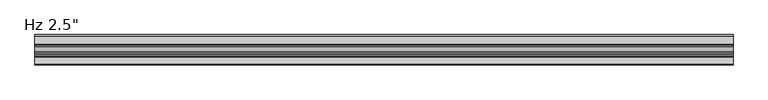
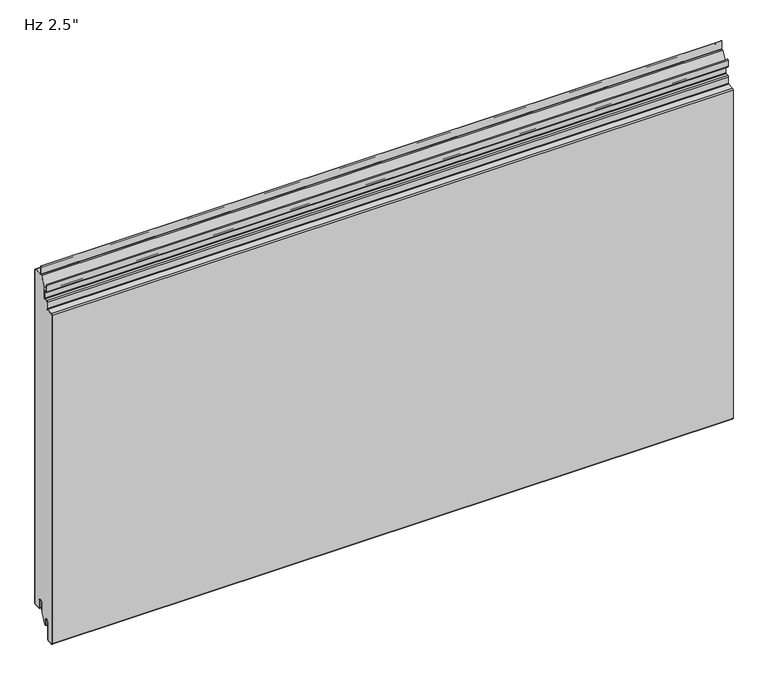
"""IFC4 building model written with IfcOpenShell, lengths in millimetres: plate geometry."""

from ifc_helpers import new_model, si_unit, point, frame, frame_2d, origin, place, context, project, spatial, polyline, circle_curve, ellipse_curve, trimmed, segment, composite_curve, outline, extrude, source, transform, mapped, element, save
from ifc_brep_helpers import plane_surface, cylinder_surface, revolved_surface, extruded_surface, advanced_brep


def plate_8016c28f(model_context):
    return source(origin(), model_context, "Body", "SolidModel", [
        extrude(outline(composite_curve([segment(trimmed(circle_curve(frame_2d((-21.43125, 19.25)), 4.96875), [point((-16.4625, 19.25))], [point((-26.4, 19.25))], True, "CARTESIAN"), True, "CONTINUOUS"), segment(polyline([(-26.4, 19.25), (-26.4, -2.9323422), (-36.5326309, -22.81875), (-38.1, -22.81875), (-38.1, -13.3080174), (-38.89375, -13.3080174), (-38.6875, -11.7205174)]), True, "CONTINUOUS"), segment(trimmed(circle_curve(frame_2d((-43.65625, -11.7205174)), 4.96875), [point((-38.6875, -11.7205174))], [point((-48.625, -11.7205174))], True, "CARTESIAN"), True, "CONTINUOUS"), segment(polyline([(-48.625, -11.7205174), (-48.625, -49.9038221)]), True, "CONTINUOUS"), segment(trimmed(circle_curve(frame_2d((-50.00625, -49.9038221)), 1.38125), [point((-48.625, -49.9038221))], [point((-49.933961, -51.2831791))], False, "CARTESIAN"), True, "CONTINUOUS"), segment(polyline([(-49.933961, -51.2831791), (-61.046461, -51.8655606)]), True, "CONTINUOUS"), segment(trimmed(circle_curve(frame_2d((-61.11875, -50.4862035)), 1.38125), [point((-61.046461, -51.8655606))], [point((-62.5, -50.4862035))], False, "CARTESIAN"), True, "CONTINUOUS"), segment(polyline([(-62.5, -50.4862035), (-62.5, 694.0447607)]), True, "CONTINUOUS"), segment(trimmed(circle_curve(frame_2d((-61.11875, 694.0447607)), 1.38125), [point((-62.5, 694.0447607))], [point((-61.191039, 695.4241177))], False, "CARTESIAN"), True, "CONTINUOUS"), segment(polyline([(-61.191039, 695.4241177), (-47.4895807, 696.1421807)]), True, "CONTINUOUS"), segment(trimmed(circle_curve(frame_2d((-47.625, 698.7261347)), 2.5875), [point((-47.4895807, 696.1421807))], [point((-45.0375, 698.7261347))], True, "CARTESIAN"), True, "CONTINUOUS"), segment(polyline([(-45.0375, 698.7261347), (-45.0375, 712.8824411)]), True, "CONTINUOUS"), segment(trimmed(circle_curve(frame_2d((-43.65625, 712.8824411)), 1.38125), [point((-45.0375, 712.8824411))], [point((-43.728539, 714.2617981))], False, "CARTESIAN"), True, "CONTINUOUS"), segment(polyline([(-43.728539, 714.2617981), (-37.9645807, 714.5638744)]), True, "CONTINUOUS"), segment(trimmed(circle_curve(frame_2d((-38.1, 717.1478283)), 2.5875), [point((-37.9645807, 714.5638744))], [point((-35.5125, 717.1478283))], True, "CARTESIAN"), True, "CONTINUOUS"), segment(polyline([(-35.5125, 717.1478283), (-35.5125, 739.5892934), (-24.9057308, 760.40625), (-2.38125, 760.40625)]), True, "CONTINUOUS"), segment(trimmed(circle_curve(frame_2d((-2.38125, 759.025)), 1.38125), [point((-2.38125, 760.40625))], [point((-1.0, 759.025))], False, "CARTESIAN"), True, "CONTINUOUS"), segment(polyline([(-1.0, 759.025), (-1.0, 3.375)]), True, "CONTINUOUS"), segment(trimmed(circle_curve(frame_2d((-2.38125, 3.375)), 1.38125), [point((-1.0, 3.375))], [point((-2.38125, 1.99375))], False, "CARTESIAN"), True, "CONTINUOUS"), segment(polyline([(-2.38125, 1.99375), (-15.08125, 1.99375)]), True, "CONTINUOUS"), segment(trimmed(circle_curve(frame_2d((-15.08125, 3.375)), 1.38125), [point((-15.08125, 1.99375))], [point((-16.4625, 3.375))], False, "CARTESIAN"), True, "CONTINUOUS"), segment(polyline([(-16.4625, 3.375), (-16.4625, 19.25)]), True, "CONTINUOUS")], self_intersect=False)), frame((-730.0, 0.0, 0.0), z_axis=(1.0, 0.0, 0.0), x_axis=(0.0, 1.0, 0.0)), (0.0, 0.0, 1.0), 1460.0),
        extrude(outline(composite_curve([segment(polyline([(-25.4, 0.99375), (-26.4, 0.99375), (-26.4, 19.25)]), True, "CONTINUOUS"), segment(trimmed(circle_curve(frame_2d((-21.43125, 19.25)), 4.96875), [point((-26.4, 19.25))], [point((-16.4625, 19.25))], False, "CARTESIAN"), True, "CONTINUOUS"), segment(polyline([(-16.4625, 19.25), (-16.4625, 3.375)]), True, "CONTINUOUS"), segment(trimmed(circle_curve(frame_2d((-15.08125, 3.375)), 1.38125), [point((-16.4625, 3.375))], [point((-15.08125, 1.99375))], True, "CARTESIAN"), True, "CONTINUOUS"), segment(polyline([(-15.08125, 1.99375), (-2.38125, 1.99375)]), True, "CONTINUOUS"), segment(trimmed(circle_curve(frame_2d((-2.38125, 3.375)), 1.38125), [point((-2.38125, 1.99375))], [point((-1.0, 3.375))], True, "CARTESIAN"), True, "CONTINUOUS"), segment(polyline([(-1.0, 3.375), (-1.0, 759.025)]), True, "CONTINUOUS"), segment(trimmed(circle_curve(frame_2d((-2.38125, 759.025)), 1.38125), [point((-1.0, 759.025))], [point((-2.38125, 760.40625))], True, "CARTESIAN"), True, "CONTINUOUS"), segment(polyline([(-2.38125, 760.40625), (-19.446875, 760.40625)]), True, "CONTINUOUS"), segment(trimmed(circle_curve(frame_2d((-19.446875, 762.99375)), 2.5875), [point((-19.446875, 760.40625))], [point((-22.034375, 762.99375))], False, "CARTESIAN"), True, "CONTINUOUS"), segment(polyline([(-22.034375, 762.99375), (-22.034375, 780.45625), (-21.034375, 780.45625), (-21.034375, 762.99375)]), True, "CONTINUOUS"), segment(trimmed(circle_curve(frame_2d((-19.446875, 762.99375)), 1.5875), [point((-21.034375, 762.99375))], [point((-19.446875, 761.40625))], True, "CARTESIAN"), True, "CONTINUOUS"), segment(polyline([(-19.446875, 761.40625), (-2.38125, 761.40625)]), True, "CONTINUOUS"), segment(trimmed(circle_curve(frame_2d((-2.38125, 759.025)), 2.38125), [point((-2.38125, 761.40625))], [point((0.0, 759.025))], False, "CARTESIAN"), True, "CONTINUOUS"), segment(polyline([(0.0, 759.025), (0.0, 3.375)]), True, "CONTINUOUS"), segment(trimmed(circle_curve(frame_2d((-2.38125, 3.375)), 2.38125), [point((0.0, 3.375))], [point((-2.38125, 0.99375))], False, "CARTESIAN"), True, "CONTINUOUS"), segment(polyline([(-2.38125, 0.99375), (-15.08125, 0.99375)]), True, "CONTINUOUS"), segment(trimmed(circle_curve(frame_2d((-15.08125, 3.375)), 2.38125), [point((-15.08125, 0.99375))], [point((-17.4625, 3.375))], False, "CARTESIAN"), True, "CONTINUOUS"), segment(polyline([(-17.4625, 3.375), (-17.4625, 19.25)]), True, "CONTINUOUS"), segment(trimmed(circle_curve(frame_2d((-21.43125, 19.25)), 3.96875), [point((-17.4625, 19.25))], [point((-25.4, 19.25))], True, "CARTESIAN"), True, "CONTINUOUS"), segment(polyline([(-25.4, 19.25), (-25.4, 0.99375)]), True, "CONTINUOUS")], self_intersect=False)), frame((-730.0, 0.0, 0.0), z_axis=(1.0, 0.0, 0.0), x_axis=(0.0, 1.0, 0.0)), (0.0, 0.0, 1.0), 1460.0),
        advanced_brep(
        [(-730.0, -38.1, -23.0314549), (-730.0, -39.6875, -23.0314549), (-730.0, -39.6875, -11.7205174), (-730.0, -47.625, -11.7205174), (-730.0, -47.625, -49.9038221), (-730.0, -49.881625, -52.2818086), (-730.0, -60.994125, -52.8641901), (-730.0, -63.5, -50.4862035), (-730.0, -63.5, 694.0447607), (-730.0, -61.243375, 696.4227473), (-730.0, -47.5419167, 697.1408103), (-730.0, -46.0375, 698.7261347), (-730.0, -46.0375, 712.8824411), (-730.0, -43.780875, 715.2604276), (-730.0, -38.0169167, 715.5625039), (-730.0, -36.5125, 717.1478283), (-730.0, -36.5125, 732.0232326), (-730.0, -38.1, 733.6107326), (-730.0, -42.2671875, 733.6107326), (-730.0, -44.6484375, 735.9919826), (-730.0, -44.6484375, 750.4836032), (-730.0, -42.8546875, 750.4836032), (-730.0, -42.8546875, 740.7544826), (-730.0, -43.6484375, 740.7544826), (-730.0, -43.6484375, 735.9919826), (-730.0, -42.2671875, 734.6107326), (-730.0, -38.1, 734.6107326), (-730.0, -35.5125, 732.0232326), (-730.0, -35.5125, 717.1478283), (-730.0, -37.9645807, 714.5638744), (-730.0, -43.728539, 714.2617981), (-730.0, -45.0375, 712.8824411), (-730.0, -45.0375, 698.7261347), (-730.0, -47.4895807, 696.1421807), (-730.0, -61.191039, 695.4241177), (-730.0, -62.5, 694.0447607), (-730.0, -62.5, -50.4862035), (-730.0, -61.046461, -51.8655606), (-730.0, -49.933961, -51.2831791), (-730.0, -48.625, -49.9038221), (-730.0, -48.625, -11.7205174), (-730.0, -38.6875, -11.7205174), (-730.0, -38.89375, -13.3080174), (-730.0, -38.1, -13.3080174), (730.0, -38.1, -23.0314549), (730.0, -38.1, -13.3080174), (730.0, -38.89375, -13.3080174), (730.0, -38.6875, -11.7205174), (730.0, -48.625, -11.7205174), (730.0, -48.625, -49.9038221), (730.0, -49.933961, -51.2831791), (730.0, -61.046461, -51.8655606), (730.0, -62.5, -50.4862035), (730.0, -62.5, 694.0447607), (730.0, -61.191039, 695.4241177), (730.0, -47.4895807, 696.1421807), (730.0, -45.0375, 698.7261347), (730.0, -45.0375, 712.8824411), (730.0, -43.728539, 714.2617981), (730.0, -37.9645807, 714.5638744), (730.0, -35.5125, 717.1478283), (730.0, -35.5125, 732.0232326), (730.0, -38.1, 734.6107326), (730.0, -42.2671875, 734.6107326), (730.0, -43.6484375, 735.9919826), (730.0, -43.6484375, 740.7544826), (730.0, -42.8546875, 740.7544826), (730.0, -42.8546875, 750.4836032), (730.0, -44.6484375, 750.4836032), (730.0, -44.6484375, 735.9919826), (730.0, -42.2671875, 733.6107326), (730.0, -38.1, 733.6107326), (730.0, -36.5125, 732.0232326), (730.0, -36.5125, 717.1478283), (730.0, -38.0169167, 715.5625039), (730.0, -43.780875, 715.2604276), (730.0, -46.0375, 712.8824411), (730.0, -46.0375, 698.7261347), (730.0, -47.5419167, 697.1408103), (730.0, -61.243375, 696.4227473), (730.0, -63.5, 694.0447607), (730.0, -63.5, -50.4862035), (730.0, -60.994125, -52.8641901), (730.0, -49.881625, -52.2818086), (730.0, -47.625, -49.9038221), (730.0, -47.625, -11.7205174), (730.0, -39.6875, -11.7205174), (730.0, -39.6875, -23.0314549)],
        [
            (0, 1, circle_curve(frame((-730.0, -38.89375, -23.0314549), z_axis=(-1.0, 0.0, 0.0), x_axis=(0.0, 0.0, -1.0)), 0.79375)),
            (1, 2),
            (2, 3, circle_curve(frame((-730.0, -43.65625, -11.7205174), z_axis=(1.0, 0.0, 0.0), x_axis=(0.0, 0.0, -1.0)), 3.96875)),
            (3, 4),
            (4, 5, circle_curve(frame((-730.0, -50.00625, -49.9038221), z_axis=(-1.0, 0.0, 0.0), x_axis=(0.0, 0.0, -1.0)), 2.38125)),
            (5, 6),
            (6, 7, circle_curve(frame((-730.0, -61.11875, -50.4862035), z_axis=(-1.0, 0.0, 0.0), x_axis=(0.0, 0.0, -1.0)), 2.38125)),
            (7, 8),
            (8, 9, circle_curve(frame((-730.0, -61.11875, 694.0447607), z_axis=(-1.0, 0.0, 0.0), x_axis=(0.0, 0.0, -1.0)), 2.38125)),
            (9, 10),
            (10, 11, circle_curve(frame((-730.0, -47.625, 698.7261347), z_axis=(1.0, 0.0, 0.0), x_axis=(0.0, 0.0, -1.0)), 1.5875)),
            (11, 12),
            (12, 13, circle_curve(frame((-730.0, -43.65625, 712.8824411), z_axis=(-1.0, 0.0, 0.0), x_axis=(0.0, 0.0, -1.0)), 2.38125)),
            (13, 14),
            (14, 15, circle_curve(frame((-730.0, -38.1, 717.1478283), z_axis=(1.0, 0.0, 0.0), x_axis=(0.0, 0.0, -1.0)), 1.5875)),
            (15, 16),
            (16, 17, circle_curve(frame((-730.0, -38.1, 732.0232326), z_axis=(1.0, 0.0, 0.0), x_axis=(0.0, 0.0, -1.0)), 1.5875)),
            (17, 18),
            (18, 19, circle_curve(frame((-730.0, -42.2671875, 735.9919826), z_axis=(-1.0, 0.0, 0.0), x_axis=(0.0, 0.0, -1.0)), 2.38125)),
            (19, 20),
            (20, 21, ellipse_curve(frame((-730.0, -43.7515625, 750.4836032), z_axis=(-1.0, 0.0, 0.0), x_axis=(0.0, 1.0, 0.0)), 0.896875, 0.7852275)),
            (21, 22),
            (22, 23),
            (23, 24),
            (24, 25, circle_curve(frame((-730.0, -42.2671875, 735.9919826), z_axis=(1.0, 0.0, 0.0), x_axis=(0.0, 0.0, -1.0)), 1.38125)),
            (25, 26),
            (26, 27, circle_curve(frame((-730.0, -38.1, 732.0232326), z_axis=(-1.0, 0.0, 0.0), x_axis=(0.0, 0.0, -1.0)), 2.5875)),
            (27, 28),
            (28, 29, circle_curve(frame((-730.0, -38.1, 717.1478283), z_axis=(-1.0, 0.0, 0.0), x_axis=(0.0, 0.0, -1.0)), 2.5875)),
            (29, 30),
            (30, 31, circle_curve(frame((-730.0, -43.65625, 712.8824411), z_axis=(1.0, 0.0, 0.0), x_axis=(0.0, 0.0, -1.0)), 1.38125)),
            (31, 32),
            (32, 33, circle_curve(frame((-730.0, -47.625, 698.7261347), z_axis=(-1.0, 0.0, 0.0), x_axis=(0.0, 0.0, -1.0)), 2.5875)),
            (33, 34),
            (34, 35, circle_curve(frame((-730.0, -61.11875, 694.0447607), z_axis=(1.0, 0.0, 0.0), x_axis=(0.0, 0.0, -1.0)), 1.38125)),
            (35, 36),
            (36, 37, circle_curve(frame((-730.0, -61.11875, -50.4862035), z_axis=(1.0, 0.0, 0.0), x_axis=(0.0, 0.0, -1.0)), 1.38125)),
            (37, 38),
            (38, 39, circle_curve(frame((-730.0, -50.00625, -49.9038221), z_axis=(1.0, 0.0, 0.0), x_axis=(0.0, 0.0, -1.0)), 1.38125)),
            (39, 40),
            (40, 41, circle_curve(frame((-730.0, -43.65625, -11.7205174), z_axis=(-1.0, 0.0, 0.0), x_axis=(0.0, 0.0, -1.0)), 4.96875)),
            (41, 42),
            (42, 43),
            (43, 0),
            (44, 45),
            (45, 46),
            (46, 47),
            (47, 48, circle_curve(frame((730.0, -43.65625, -11.7205174), z_axis=(1.0, 0.0, 0.0), x_axis=(0.0, 0.0, -1.0)), 4.96875)),
            (48, 49),
            (49, 50, circle_curve(frame((730.0, -50.00625, -49.9038221), z_axis=(-1.0, 0.0, 0.0), x_axis=(0.0, 0.0, -1.0)), 1.38125)),
            (50, 51),
            (51, 52, circle_curve(frame((730.0, -61.11875, -50.4862035), z_axis=(-1.0, 0.0, 0.0), x_axis=(0.0, 0.0, -1.0)), 1.38125)),
            (52, 53),
            (53, 54, circle_curve(frame((730.0, -61.11875, 694.0447607), z_axis=(-1.0, 0.0, 0.0), x_axis=(0.0, 0.0, -1.0)), 1.38125)),
            (54, 55),
            (55, 56, circle_curve(frame((730.0, -47.625, 698.7261347), z_axis=(1.0, 0.0, 0.0), x_axis=(0.0, 0.0, -1.0)), 2.5875)),
            (56, 57),
            (57, 58, circle_curve(frame((730.0, -43.65625, 712.8824411), z_axis=(-1.0, 0.0, 0.0), x_axis=(0.0, 0.0, -1.0)), 1.38125)),
            (58, 59),
            (59, 60, circle_curve(frame((730.0, -38.1, 717.1478283), z_axis=(1.0, 0.0, 0.0), x_axis=(0.0, 0.0, -1.0)), 2.5875)),
            (60, 61),
            (61, 62, circle_curve(frame((730.0, -38.1, 732.0232326), z_axis=(1.0, 0.0, 0.0), x_axis=(0.0, 0.0, -1.0)), 2.5875)),
            (62, 63),
            (63, 64, circle_curve(frame((730.0, -42.2671875, 735.9919826), z_axis=(-1.0, 0.0, 0.0), x_axis=(0.0, 0.0, -1.0)), 1.38125)),
            (64, 65),
            (65, 66),
            (66, 67),
            (67, 68, ellipse_curve(frame((730.0, -43.7515625, 750.4836032), z_axis=(1.0, 0.0, 0.0), x_axis=(0.0, 1.0, 0.0)), 0.896875, 0.7852275)),
            (68, 69),
            (69, 70, circle_curve(frame((730.0, -42.2671875, 735.9919826), z_axis=(1.0, 0.0, 0.0), x_axis=(0.0, 0.0, -1.0)), 2.38125)),
            (70, 71),
            (71, 72, circle_curve(frame((730.0, -38.1, 732.0232326), z_axis=(-1.0, 0.0, 0.0), x_axis=(0.0, 0.0, -1.0)), 1.5875)),
            (72, 73),
            (73, 74, circle_curve(frame((730.0, -38.1, 717.1478283), z_axis=(-1.0, 0.0, 0.0), x_axis=(0.0, 0.0, -1.0)), 1.5875)),
            (74, 75),
            (75, 76, circle_curve(frame((730.0, -43.65625, 712.8824411), z_axis=(1.0, 0.0, 0.0), x_axis=(0.0, 0.0, -1.0)), 2.38125)),
            (76, 77),
            (77, 78, circle_curve(frame((730.0, -47.625, 698.7261347), z_axis=(-1.0, 0.0, 0.0), x_axis=(0.0, 0.0, -1.0)), 1.5875)),
            (78, 79),
            (79, 80, circle_curve(frame((730.0, -61.11875, 694.0447607), z_axis=(1.0, 0.0, 0.0), x_axis=(0.0, 0.0, -1.0)), 2.38125)),
            (80, 81),
            (81, 82, circle_curve(frame((730.0, -61.11875, -50.4862035), z_axis=(1.0, 0.0, 0.0), x_axis=(0.0, 0.0, -1.0)), 2.38125)),
            (82, 83),
            (83, 84, circle_curve(frame((730.0, -50.00625, -49.9038221), z_axis=(1.0, 0.0, 0.0), x_axis=(0.0, 0.0, -1.0)), 2.38125)),
            (84, 85),
            (85, 86, circle_curve(frame((730.0, -43.65625, -11.7205174), z_axis=(-1.0, 0.0, 0.0), x_axis=(0.0, 0.0, -1.0)), 3.96875)),
            (86, 87),
            (87, 44, circle_curve(frame((730.0, -38.89375, -23.0314549), z_axis=(1.0, 0.0, 0.0), x_axis=(0.0, 0.0, -1.0)), 0.79375)),
            (36, 52),
            (51, 37),
            (50, 38),
            (49, 39),
            (48, 40),
            (47, 41),
            (42, 46),
            (45, 43),
            (22, 66),
            (65, 23),
            (21, 67),
            (20, 68),
            (34, 54),
            (53, 35),
            (32, 56),
            (55, 33),
            (30, 58),
            (57, 31),
            (28, 60),
            (59, 29),
            (24, 64),
            (63, 25),
            (26, 62),
            (61, 27),
            (19, 69),
            (17, 71),
            (70, 18),
            (15, 73),
            (72, 16),
            (13, 75),
            (74, 14),
            (11, 77),
            (76, 12),
            (9, 79),
            (78, 10),
            (7, 81),
            (80, 8),
            (5, 83),
            (82, 6),
            (3, 85),
            (84, 4),
            (1, 87),
            (86, 2),
            (44, 0),
        ],
        [
            plane_surface(frame((-730.0, -63.5, 381.2), z_axis=(-1.0, 0.0, 0.0), x_axis=(0.0, -1.0, 0.0))),
            plane_surface(frame((730.0, -63.5, 381.2), z_axis=(1.0, 0.0, 0.0), x_axis=(0.0, -1.0, 0.0))),
            revolved_surface(polyline([(730.0, -61.11875, -51.8674535), (-730.0, -61.11875, -51.8674535)]), (-730.0, -61.11875, -50.4862035), (1.0, 0.0, 0.0)),
            plane_surface(frame((-730.0, -49.933961, -51.2831791), z_axis=(0.0, -0.05233595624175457, 0.9986295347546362), x_axis=(1.0, 0.0, 0.0))),
            revolved_surface(polyline([(730.0, -50.00625, -51.2850721), (-730.0, -50.00625, -51.2850721)]), (-730.0, -50.00625, -49.9038221), (1.0, 0.0, 0.0)),
            plane_surface(frame((-730.0, -48.625, -11.7205174), z_axis=(0.0, -1.0, 0.0), x_axis=(1.0, 0.0, 0.0))),
            cylinder_surface(frame((-730.0, -43.65625, -11.7205174), z_axis=(-1.0, 0.0, 0.0), x_axis=(0.0, 0.0, -1.0)), 4.96875),
            plane_surface(frame((-730.0, -38.1, -13.3080174), z_axis=(0.0, 0.0, 1.0), x_axis=(1.0, 0.0, 0.0))),
            plane_surface(frame((-730.0, -38.89375, -13.3080174), z_axis=(0.0, 0.9916655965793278, -0.12883844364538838), x_axis=(1.0, 0.0, 0.0))),
            plane_surface(frame((-730.0, -43.6484375, 740.7544826), z_axis=(0.0, 0.0, -1.0), x_axis=(1.0, 0.0, 0.0))),
            plane_surface(frame((-730.0, -42.8546875, 740.7544826), z_axis=(0.0, 1.0, 0.0), x_axis=(1.0, 0.0, 0.0))),
            extruded_surface(trimmed(ellipse_curve(frame((-730.0, -43.7515625, 750.4836032), z_axis=(1.0, 0.0, 0.0), x_axis=(0.0, 1.0, 0.0)), 0.896875, 0.7852275), [point((-730.0, -42.8546875, 750.4836032))], [point((-730.0, -44.6484375, 750.4836032))], True, "CARTESIAN"), (1460.0, 0.0, 0.0), 1460.0),
            revolved_surface(polyline([(730.0, -61.11875, 692.6635107), (-730.0, -61.11875, 692.6635107)]), (-730.0, -61.11875, 694.0447607), (1.0, 0.0, 0.0)),
            cylinder_surface(frame((-730.0, -47.625, 698.7261347), z_axis=(-1.0, 0.0, 0.0), x_axis=(0.0, 0.0, -1.0)), 2.5875),
            plane_surface(frame((-730.0, -61.191039, 695.4241177), z_axis=(0.0, 0.05233595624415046, -0.9986295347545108), x_axis=(1.0, 0.0, 0.0))),
            plane_surface(frame((-730.0, -62.5, -50.4862035), z_axis=(0.0, 1.0, 0.0), x_axis=(1.0, 0.0, 0.0))),
            revolved_surface(polyline([(730.0, -43.65625, 711.5011911), (-730.0, -43.65625, 711.5011911)]), (-730.0, -43.65625, 712.8824411), (1.0, 0.0, 0.0)),
            cylinder_surface(frame((-730.0, -38.1, 717.1478283), z_axis=(-1.0, 0.0, 0.0), x_axis=(0.0, 0.0, -1.0)), 2.5875),
            plane_surface(frame((-730.0, -43.728539, 714.2617981), z_axis=(0.0, 0.052335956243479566, -0.9986295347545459), x_axis=(1.0, 0.0, 0.0))),
            plane_surface(frame((-730.0, -45.0375, 698.7261347), z_axis=(0.0, 1.0, 0.0), x_axis=(1.0, 0.0, 0.0))),
            revolved_surface(polyline([(730.0, -42.2671875, 734.6107326), (-730.0, -42.2671875, 734.6107326)]), (-730.0, -42.2671875, 735.9919826), (1.0, 0.0, 0.0)),
            cylinder_surface(frame((-730.0, -38.1, 732.0232326), z_axis=(-1.0, 0.0, 0.0), x_axis=(0.0, 0.0, -1.0)), 2.5875),
            plane_surface(frame((-730.0, -38.1, 734.6107326), z_axis=(0.0, 0.0, 1.0), x_axis=(1.0, 0.0, 0.0))),
            plane_surface(frame((-730.0, -43.6484375, 735.9919826), z_axis=(0.0, 1.0, 0.0), x_axis=(1.0, 0.0, 0.0))),
            plane_surface(frame((-730.0, -44.6484375, 750.4836032), z_axis=(0.0, -1.0, 0.0), x_axis=(1.0, 0.0, 0.0))),
            plane_surface(frame((-730.0, -42.2671875, 733.6107326), z_axis=(0.0, 0.0, -1.0), x_axis=(1.0, 0.0, 0.0))),
            cylinder_surface(frame((-730.0, -42.2671875, 735.9919826), z_axis=(-1.0, 0.0, 0.0), x_axis=(0.0, 0.0, -1.0)), 2.38125),
            plane_surface(frame((-730.0, -35.5125, 717.1478283), z_axis=(0.0, 1.0, 0.0), x_axis=(1.0, 0.0, 0.0))),
            plane_surface(frame((-730.0, -36.5125, 732.0232326), z_axis=(0.0, -1.0, 0.0), x_axis=(1.0, 0.0, 0.0))),
            plane_surface(frame((-730.0, -38.0169167, 715.5625039), z_axis=(0.0, -0.05233595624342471, 0.9986295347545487), x_axis=(1.0, 0.0, 0.0))),
            revolved_surface(polyline([(730.0, -38.1, 715.5603283), (-730.0, -38.1, 715.5603283)]), (-730.0, -38.1, 717.1478283), (1.0, 0.0, 0.0)),
            revolved_surface(polyline([(730.0, -38.1, 730.4357326), (-730.0, -38.1, 730.4357326)]), (-730.0, -38.1, 732.0232326), (1.0, 0.0, 0.0)),
            plane_surface(frame((-730.0, -46.0375, 712.8824411), z_axis=(0.0, -1.0, 0.0), x_axis=(1.0, 0.0, 0.0))),
            plane_surface(frame((-730.0, -47.5419167, 697.1408103), z_axis=(0.0, -0.0523359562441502, 0.9986295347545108), x_axis=(1.0, 0.0, 0.0))),
            revolved_surface(polyline([(730.0, -47.625, 697.1386347), (-730.0, -47.625, 697.1386347)]), (-730.0, -47.625, 698.7261347), (1.0, 0.0, 0.0)),
            cylinder_surface(frame((-730.0, -43.65625, 712.8824411), z_axis=(-1.0, 0.0, 0.0), x_axis=(0.0, 0.0, -1.0)), 2.38125),
            plane_surface(frame((-730.0, -63.5, 694.0447607), z_axis=(0.0, -1.0, 0.0), x_axis=(1.0, 0.0, 0.0))),
            plane_surface(frame((-730.0, -60.994125, -52.8641901), z_axis=(0.0, 0.05233595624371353, -0.9986295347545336), x_axis=(1.0, 0.0, 0.0))),
            cylinder_surface(frame((-730.0, -61.11875, -50.4862035), z_axis=(-1.0, 0.0, 0.0), x_axis=(0.0, 0.0, -1.0)), 2.38125),
            cylinder_surface(frame((-730.0, -61.11875, 694.0447607), z_axis=(-1.0, 0.0, 0.0), x_axis=(0.0, 0.0, -1.0)), 2.38125),
            plane_surface(frame((-730.0, -47.625, -49.9038221), z_axis=(0.0, 1.0, 0.0), x_axis=(1.0, 0.0, 0.0))),
            plane_surface(frame((-730.0, -39.6875, -11.7205174), z_axis=(0.0, -1.0, 0.0), x_axis=(1.0, 0.0, 0.0))),
            revolved_surface(polyline([(730.0, -43.65625, -15.6892674), (-730.0, -43.65625, -15.6892674)]), (-730.0, -43.65625, -11.7205174), (1.0, 0.0, 0.0)),
            cylinder_surface(frame((-730.0, -50.00625, -49.9038221), z_axis=(-1.0, 0.0, 0.0), x_axis=(0.0, 0.0, -1.0)), 2.38125),
            plane_surface(frame((-730.0, -38.1, -23.0314549), z_axis=(0.0, 1.0, 0.0), x_axis=(1.0, 0.0, 0.0))),
            cylinder_surface(frame((-730.0, -38.89375, -23.0314549), z_axis=(-1.0, 0.0, 0.0), x_axis=(0.0, 0.0, -1.0)), 0.79375),
        ],
        [
            (0, [[1, 2, 3, 4, 5, 6, 7, 8, 9, 10, 11, 12, 13, 14, 15, 16, 17, 18, 19, 20, 21, 22, 23, 24, 25, 26, 27, 28, 29, 30, 31, 32, 33, 34, 35, 36, 37, 38, 39, 40, 41, 42, 43, 44]]),
            (1, [[45, 46, 47, 48, 49, 50, 51, 52, 53, 54, 55, 56, 57, 58, 59, 60, 61, 62, 63, 64, 65, 66, 67, 68, 69, 70, 71, 72, 73, 74, 75, 76, 77, 78, 79, 80, 81, 82, 83, 84, 85, 86, 87, 88]]),
            (2, [[89, -52, 90, -37]]),
            (3, [[-90, -51, 91, -38]]),
            (4, [[-91, -50, 92, -39]]),
            (5, [[-92, -49, 93, -40]]),
            (6, [[-93, -48, 94, -41]]),
            (7, [[95, -46, 96, -43]]),
            (8, [[-94, -47, -95, -42]]),
            (9, [[97, -66, 98, -23]]),
            (10, [[99, -67, -97, -22]]),
            (11, [[100, -68, -99, -21]]),
            (12, [[101, -54, 102, -35]]),
            (13, [[103, -56, 104, -33]]),
            (14, [[-104, -55, -101, -34]]),
            (15, [[-102, -53, -89, -36]]),
            (16, [[105, -58, 106, -31]]),
            (17, [[107, -60, 108, -29]]),
            (18, [[-108, -59, -105, -30]]),
            (19, [[-106, -57, -103, -32]]),
            (20, [[109, -64, 110, -25]]),
            (21, [[111, -62, 112, -27]]),
            (22, [[-110, -63, -111, -26]]),
            (23, [[-98, -65, -109, -24]]),
            (24, [[113, -69, -100, -20]]),
            (25, [[114, -71, 115, -18]]),
            (26, [[-115, -70, -113, -19]]),
            (27, [[-112, -61, -107, -28]]),
            (28, [[116, -73, 117, -16]]),
            (29, [[118, -75, 119, -14]]),
            (30, [[-119, -74, -116, -15]]),
            (31, [[-117, -72, -114, -17]]),
            (32, [[120, -77, 121, -12]]),
            (33, [[122, -79, 123, -10]]),
            (34, [[-123, -78, -120, -11]]),
            (35, [[-121, -76, -118, -13]]),
            (36, [[124, -81, 125, -8]]),
            (37, [[126, -83, 127, -6]]),
            (38, [[-127, -82, -124, -7]]),
            (39, [[-125, -80, -122, -9]]),
            (40, [[128, -85, 129, -4]]),
            (41, [[130, -87, 131, -2]]),
            (42, [[-131, -86, -128, -3]]),
            (43, [[-129, -84, -126, -5]]),
            (44, [[-96, -45, 132, -44]]),
            (45, [[-132, -88, -130, -1]]),
        ],
    ),
    ])


if __name__ == "__main__":
    model = new_model("IFC4")
    model_context = context("Model", 3, world=origin())
    ifc_project = project(units=[si_unit("LENGTHUNIT", "METRE", prefix="MILLI")], contexts=[model_context])
    site = spatial("IfcSite", under=ifc_project)
    building = spatial("IfcBuilding", under=site)
    placement = place(None, origin())
    plate_shape = plate_8016c28f(model_context)
    element("IfcPlate", 1, ObjectType="KIP-30-DWHR-R19-CP-Hz-F : Hz 2.5\"", at=placement, inside=building, context=model_context, shape_type="MappedRepresentation", body=[
        mapped(plate_shape, transform((0.0, 0.0, 0.0), x_axis=(1.0, 0.0, 0.0), y_axis=(0.0, 1.0, 0.0), z_axis=(0.0, 0.0, 1.0))),
    ])
    save(model, "model.ifc")
